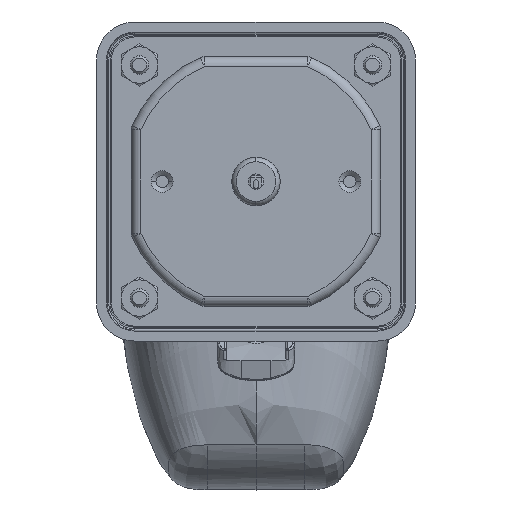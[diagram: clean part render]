
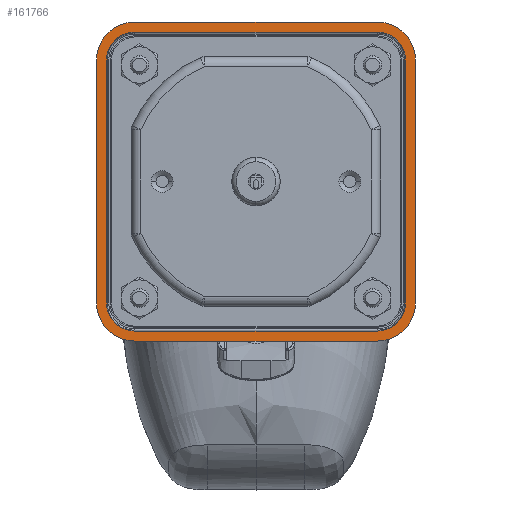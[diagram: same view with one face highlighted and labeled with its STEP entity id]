
A CAD part, front view. The second image highlights one B-rep face of the part: STEP entity #161766.
In plain terms, the highlighted planar face has unit normal (0, -1, 0).
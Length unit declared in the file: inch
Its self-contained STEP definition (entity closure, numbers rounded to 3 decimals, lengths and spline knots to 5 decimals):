
#1910 = CARTESIAN_POINT ( 'NONE',  ( 1.64289, -0.0685, 1.25 ) ) ;
#2853 = LINE ( 'NONE', #133540, #100106 ) ;
#3096 = CARTESIAN_POINT ( 'NONE',  ( 1.25, -0.0685, 1.25 ) ) ;
#4916 = AXIS2_PLACEMENT_3D ( 'NONE', #137593, #196226, #89914 ) ;
#5717 = EDGE_CURVE ( 'NONE', #50583, #141424, #151131, .T. ) ;
#6814 = CARTESIAN_POINT ( 'NONE',  ( -1.53989, -0.0685, -1.25 ) ) ;
#9487 = ORIENTED_EDGE ( 'NONE', *, *, #43296, .F. ) ;
#11357 = DIRECTION ( 'NONE',  ( 0., -1., 0. ) ) ;
#14620 = DIRECTION ( 'NONE',  ( 0., 1., 0. ) ) ;
#14859 = CIRCLE ( 'NONE', #144377, 0.28989 ) ;
#15786 = CARTESIAN_POINT ( 'NONE',  ( 1.25, -0.0685, 1.53989 ) ) ;
#16572 = VERTEX_POINT ( 'NONE', #27044 ) ;
#16721 = CIRCLE ( 'NONE', #47511, 0.28989 ) ;
#18722 = EDGE_CURVE ( 'NONE', #95703, #48980, #119345, .T. ) ;
#22782 = VERTEX_POINT ( 'NONE', #146993 ) ;
#25688 = CIRCLE ( 'NONE', #83132, 0.39289 ) ;
#26447 = CARTESIAN_POINT ( 'NONE',  ( -1.25, -0.0685, -1.64289 ) ) ;
#26862 = DIRECTION ( 'NONE',  ( -1., 0., 0. ) ) ;
#27002 = AXIS2_PLACEMENT_3D ( 'NONE', #82798, #143704, #83449 ) ;
#27044 = CARTESIAN_POINT ( 'NONE',  ( -1.25, -0.0685, -1.53989 ) ) ;
#27656 = CIRCLE ( 'NONE', #190755, 0.28989 ) ;
#29323 = VECTOR ( 'NONE', #180278, 39.37008 ) ;
#29695 = EDGE_CURVE ( 'NONE', #48980, #98924, #81233, .T. ) ;
#32473 = VECTOR ( 'NONE', #63553, 39.37008 ) ;
#33442 = CARTESIAN_POINT ( 'NONE',  ( 1.25, -0.0685, 1.25 ) ) ;
#36161 = DIRECTION ( 'NONE',  ( 1., 0., 0. ) ) ;
#37561 = LINE ( 'NONE', #155776, #61223 ) ;
#41378 = CARTESIAN_POINT ( 'NONE',  ( 1.25, -0.0685, 1.53989 ) ) ;
#41872 = ORIENTED_EDGE ( 'NONE', *, *, #18722, .F. ) ;
#43296 = EDGE_CURVE ( 'NONE', #159456, #16572, #194165, .T. ) ;
#44318 = CARTESIAN_POINT ( 'NONE',  ( 1.25, -0.0685, -1.25 ) ) ;
#44814 = AXIS2_PLACEMENT_3D ( 'NONE', #33442, #63866, #48631 ) ;
#44912 = PLANE ( 'NONE',  #4916 ) ;
#44977 = DIRECTION ( 'NONE',  ( 1., 0., 0. ) ) ;
#46770 = DIRECTION ( 'NONE',  ( 1., 0., 0. ) ) ;
#47511 = AXIS2_PLACEMENT_3D ( 'NONE', #96347, #129434, #36161 ) ;
#48631 = DIRECTION ( 'NONE',  ( 1., 0., 0. ) ) ;
#48980 = VERTEX_POINT ( 'NONE', #74419 ) ;
#50583 = VERTEX_POINT ( 'NONE', #15786 ) ;
#54077 = AXIS2_PLACEMENT_3D ( 'NONE', #142832, #112310, #68586 ) ;
#56337 = CARTESIAN_POINT ( 'NONE',  ( -1.25, -0.0685, 1.25 ) ) ;
#57365 = VERTEX_POINT ( 'NONE', #137851 ) ;
#57463 = ORIENTED_EDGE ( 'NONE', *, *, #131289, .F. ) ;
#61223 = VECTOR ( 'NONE', #96920, 39.37008 ) ;
#62167 = VERTEX_POINT ( 'NONE', #26447 ) ;
#63553 = DIRECTION ( 'NONE',  ( 1., 0., 0. ) ) ;
#63866 = DIRECTION ( 'NONE',  ( 0., 1., 0. ) ) ;
#65710 = ORIENTED_EDGE ( 'NONE', *, *, #29695, .F. ) ;
#66537 = EDGE_CURVE ( 'NONE', #62167, #95703, #166212, .T. ) ;
#68585 = VERTEX_POINT ( 'NONE', #187458 ) ;
#68586 = DIRECTION ( 'NONE',  ( 1., 0., 0. ) ) ;
#69378 = DIRECTION ( 'NONE',  ( -1., 0., 0. ) ) ;
#70689 = ORIENTED_EDGE ( 'NONE', *, *, #78965, .F. ) ;
#72611 = LINE ( 'NONE', #107913, #32473 ) ;
#74419 = CARTESIAN_POINT ( 'NONE',  ( -1.64289, -0.0685, 1.25 ) ) ;
#78965 = EDGE_CURVE ( 'NONE', #141424, #94254, #27656, .T. ) ;
#81233 = CIRCLE ( 'NONE', #27002, 0.39289 ) ;
#81298 = VERTEX_POINT ( 'NONE', #154593 ) ;
#82598 = EDGE_LOOP ( 'NONE', ( #164571, #139433, #65710, #41872, #192427, #153304, #155584, #96153 ) ) ;
#82798 = CARTESIAN_POINT ( 'NONE',  ( -1.25, -0.0685, 1.25 ) ) ;
#83132 = AXIS2_PLACEMENT_3D ( 'NONE', #44318, #14620, #44977 ) ;
#83449 = DIRECTION ( 'NONE',  ( 1., 0., 0. ) ) ;
#87830 = DIRECTION ( 'NONE',  ( 1., 0., 0. ) ) ;
#89145 = CARTESIAN_POINT ( 'NONE',  ( -1.64289, -0.0685, 1.25 ) ) ;
#89914 = DIRECTION ( 'NONE',  ( 1., 0., 0. ) ) ;
#91077 = EDGE_CURVE ( 'NONE', #98924, #81298, #2853, .T. ) ;
#91691 = EDGE_CURVE ( 'NONE', #81298, #185920, #158509, .T. ) ;
#94254 = VERTEX_POINT ( 'NONE', #149564 ) ;
#95135 = CARTESIAN_POINT ( 'NONE',  ( 1.53989, -0.0685, -1.25 ) ) ;
#95703 = VERTEX_POINT ( 'NONE', #147827 ) ;
#96153 = ORIENTED_EDGE ( 'NONE', *, *, #150589, .F. ) ;
#96347 = CARTESIAN_POINT ( 'NONE',  ( 1.25, -0.0685, -1.25 ) ) ;
#96920 = DIRECTION ( 'NONE',  ( 0., 0., -1. ) ) ;
#97429 = DIRECTION ( 'NONE',  ( 1., 0., 0. ) ) ;
#98924 = VERTEX_POINT ( 'NONE', #122404 ) ;
#100106 = VECTOR ( 'NONE', #87830, 39.37008 ) ;
#105172 = AXIS2_PLACEMENT_3D ( 'NONE', #188572, #187925, #97429 ) ;
#105898 = EDGE_CURVE ( 'NONE', #68585, #50583, #14859, .T. ) ;
#106143 = VECTOR ( 'NONE', #26862, 39.37008 ) ;
#107783 = ORIENTED_EDGE ( 'NONE', *, *, #105898, .F. ) ;
#107913 = CARTESIAN_POINT ( 'NONE',  ( -1.25, -0.0685, -1.53989 ) ) ;
#108985 = DIRECTION ( 'NONE',  ( 0., -1., 0. ) ) ;
#112294 = FACE_BOUND ( 'NONE', #130280, .T. ) ;
#112310 = DIRECTION ( 'NONE',  ( 0., 1., 0. ) ) ;
#115647 = ORIENTED_EDGE ( 'NONE', *, *, #5717, .F. ) ;
#119345 = LINE ( 'NONE', #89145, #29323 ) ;
#121774 = VECTOR ( 'NONE', #176689, 39.37008 ) ;
#122404 = CARTESIAN_POINT ( 'NONE',  ( -1.25, -0.0685, 1.64289 ) ) ;
#122621 = VERTEX_POINT ( 'NONE', #173706 ) ;
#123145 = VERTEX_POINT ( 'NONE', #158980 ) ;
#129434 = DIRECTION ( 'NONE',  ( 0., -1., 0. ) ) ;
#130280 = EDGE_LOOP ( 'NONE', ( #107783, #184597, #57463, #184671, #9487, #181275, #70689, #115647 ) ) ;
#131189 = DIRECTION ( 'NONE',  ( 1., 0., 0. ) ) ;
#131289 = EDGE_CURVE ( 'NONE', #57365, #123145, #16721, .T. ) ;
#133540 = CARTESIAN_POINT ( 'NONE',  ( 1.25, -0.0685, 1.64289 ) ) ;
#134129 = EDGE_CURVE ( 'NONE', #22782, #62167, #135332, .T. ) ;
#135332 = LINE ( 'NONE', #160006, #175372 ) ;
#137593 = CARTESIAN_POINT ( 'NONE',  ( 1.25, -0.0685, 1.25 ) ) ;
#137851 = CARTESIAN_POINT ( 'NONE',  ( 1.25, -0.0685, -1.53989 ) ) ;
#139433 = ORIENTED_EDGE ( 'NONE', *, *, #91077, .F. ) ;
#141424 = VERTEX_POINT ( 'NONE', #189654 ) ;
#142832 = CARTESIAN_POINT ( 'NONE',  ( -1.25, -0.0685, -1.25 ) ) ;
#143139 = FACE_OUTER_BOUND ( 'NONE', #82598, .T. ) ;
#143704 = DIRECTION ( 'NONE',  ( 0., 1., 0. ) ) ;
#144377 = AXIS2_PLACEMENT_3D ( 'NONE', #3096, #108985, #46770 ) ;
#145831 = CARTESIAN_POINT ( 'NONE',  ( -1.53989, -0.0685, 1.25 ) ) ;
#146505 = EDGE_CURVE ( 'NONE', #16572, #57365, #72611, .T. ) ;
#146993 = CARTESIAN_POINT ( 'NONE',  ( 1.25, -0.0685, -1.64289 ) ) ;
#147827 = CARTESIAN_POINT ( 'NONE',  ( -1.64289, -0.0685, -1.25 ) ) ;
#149564 = CARTESIAN_POINT ( 'NONE',  ( -1.53989, -0.0685, 1.25 ) ) ;
#150589 = EDGE_CURVE ( 'NONE', #185920, #122621, #37561, .T. ) ;
#151131 = LINE ( 'NONE', #41378, #106143 ) ;
#152673 = DIRECTION ( 'NONE',  ( 0., 0., 1. ) ) ;
#153304 = ORIENTED_EDGE ( 'NONE', *, *, #134129, .F. ) ;
#154593 = CARTESIAN_POINT ( 'NONE',  ( 1.25, -0.0685, 1.64289 ) ) ;
#155584 = ORIENTED_EDGE ( 'NONE', *, *, #195716, .F. ) ;
#155776 = CARTESIAN_POINT ( 'NONE',  ( 1.64289, -0.0685, 1.25 ) ) ;
#158509 = CIRCLE ( 'NONE', #44814, 0.39289 ) ;
#158980 = CARTESIAN_POINT ( 'NONE',  ( 1.53989, -0.0685, -1.25 ) ) ;
#159456 = VERTEX_POINT ( 'NONE', #6814 ) ;
#160006 = CARTESIAN_POINT ( 'NONE',  ( 1.25, -0.0685, -1.64289 ) ) ;
#161766 = ADVANCED_FACE ( 'NONE', ( #112294, #143139 ), #44912, .T. ) ;
#163445 = LINE ( 'NONE', #95135, #194074 ) ;
#164571 = ORIENTED_EDGE ( 'NONE', *, *, #91691, .F. ) ;
#166212 = CIRCLE ( 'NONE', #54077, 0.39289 ) ;
#171366 = LINE ( 'NONE', #145831, #121774 ) ;
#173706 = CARTESIAN_POINT ( 'NONE',  ( 1.64289, -0.0685, -1.25 ) ) ;
#175372 = VECTOR ( 'NONE', #69378, 39.37008 ) ;
#176093 = EDGE_CURVE ( 'NONE', #123145, #68585, #163445, .T. ) ;
#176689 = DIRECTION ( 'NONE',  ( 0., 0., -1. ) ) ;
#178751 = EDGE_CURVE ( 'NONE', #94254, #159456, #171366, .T. ) ;
#180278 = DIRECTION ( 'NONE',  ( 0., 0., 1. ) ) ;
#181275 = ORIENTED_EDGE ( 'NONE', *, *, #178751, .F. ) ;
#184597 = ORIENTED_EDGE ( 'NONE', *, *, #176093, .F. ) ;
#184671 = ORIENTED_EDGE ( 'NONE', *, *, #146505, .F. ) ;
#185920 = VERTEX_POINT ( 'NONE', #1910 ) ;
#187458 = CARTESIAN_POINT ( 'NONE',  ( 1.53989, -0.0685, 1.25 ) ) ;
#187925 = DIRECTION ( 'NONE',  ( 0., -1., 0. ) ) ;
#188572 = CARTESIAN_POINT ( 'NONE',  ( -1.25, -0.0685, -1.25 ) ) ;
#189654 = CARTESIAN_POINT ( 'NONE',  ( -1.25, -0.0685, 1.53989 ) ) ;
#190755 = AXIS2_PLACEMENT_3D ( 'NONE', #56337, #11357, #131189 ) ;
#192427 = ORIENTED_EDGE ( 'NONE', *, *, #66537, .F. ) ;
#194074 = VECTOR ( 'NONE', #152673, 39.37008 ) ;
#194165 = CIRCLE ( 'NONE', #105172, 0.28989 ) ;
#195716 = EDGE_CURVE ( 'NONE', #122621, #22782, #25688, .T. ) ;
#196226 = DIRECTION ( 'NONE',  ( 0., -1., 0. ) ) ;
